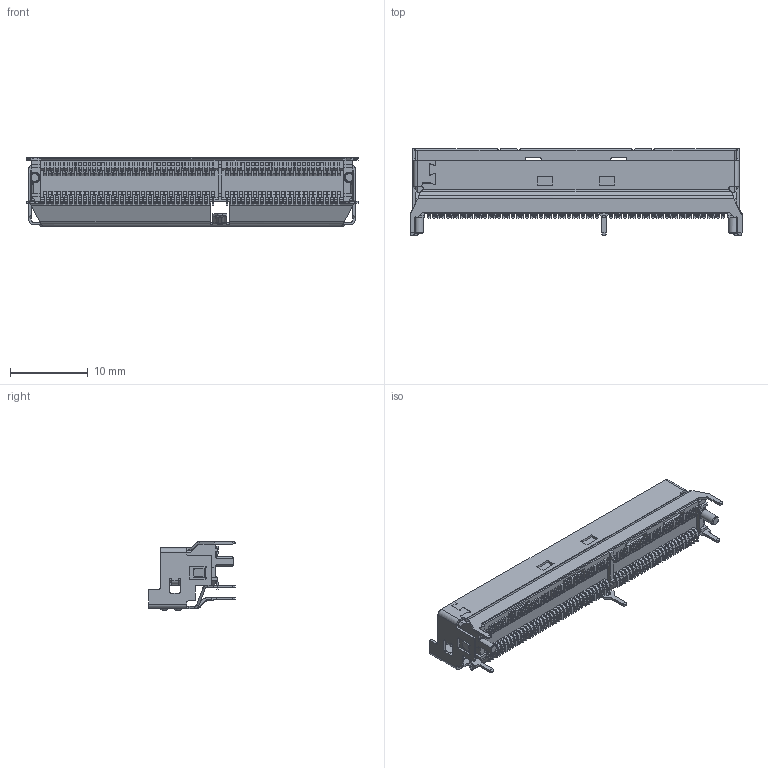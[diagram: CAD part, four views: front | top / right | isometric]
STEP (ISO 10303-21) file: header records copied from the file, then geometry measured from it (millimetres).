
FILE_DESCRIPTION((''),'2;1');
FILE_NAME('02V331X10H','2024-05-17T00:16:46',('ZL'),(''),'CREO PARAMETRIC BY PTC INC, 2020053','CREO PARAMETRIC BY PTC INC, 2020053','');
FILE_SCHEMA(('AUTOMOTIVE_DESIGN { 1 0 10303 214 1 1 1 1 }'));
Products named in the file (1): 02V331X10H
Bounding box: 42.75 x 11.15 x 8.82 mm (x, y, z)
Volume: 1047 mm3; surface area: 4448.3 mm2
Topology: 1 solids, 2 shells, 7589 faces, 22765 edges, 15040 vertices
Faces by surface type: plane 5410, cylinder 1647, extrusion 490, bspline 22, torus 14, cone 6
Entity records: 274267 total; most frequent: CARTESIAN_POINT 53123, ORIENTED_EDGE 45530, DIRECTION 39662, EDGE_CURVE 22765, VECTOR 18831, LINE 18341, VERTEX_POINT 15040, AXIS2_PLACEMENT_3D 10414
